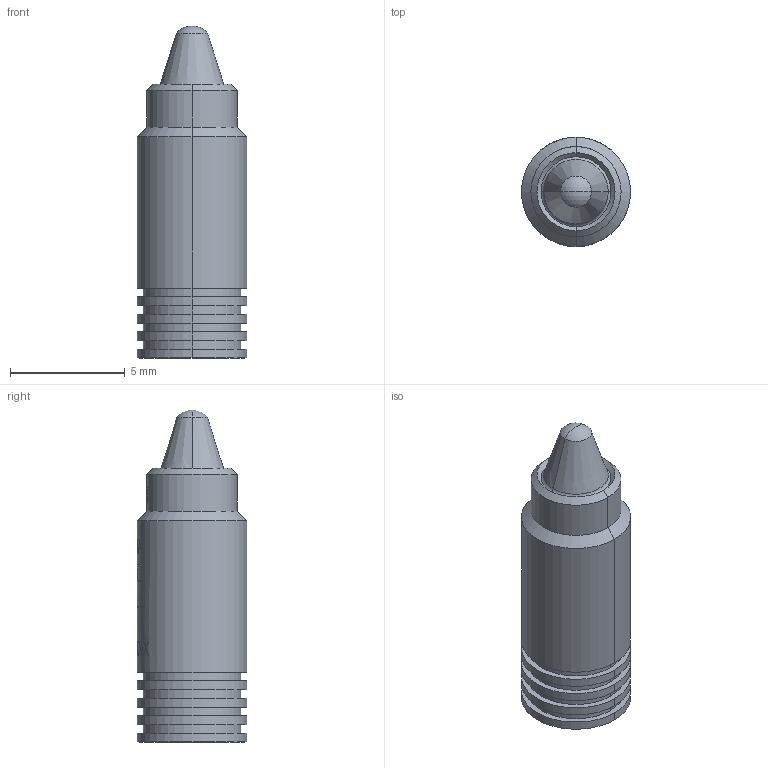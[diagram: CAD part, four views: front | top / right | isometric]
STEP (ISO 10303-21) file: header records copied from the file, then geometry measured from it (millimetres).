
FILE_DESCRIPTION (( 'STEP AP214' ), '1' );
FILE_NAME ('3DJHTA187-----.STEP', '2013-05-02T12:27:52', ( 'tlc' ), ( 'Microsoft' ), 'SwSTEP 2.0', 'SolidWorks 2012', '' );
FILE_SCHEMA (( 'AUTOMOTIVE_DESIGN' ));
Length unit declared in the file: inch
Products named in the file (1): 3DJHTA187-----
Bounding box: 4.76 x 4.76 x 14.48 mm (x, y, z)
Volume: 193.2 mm3; surface area: 265.4 mm2
Topology: 1 solids, 1 shells, 259 faces, 657 edges, 433 vertices
Faces by surface type: plane 99, bspline 97, cylinder 49, cone 10, sphere 2, torus 2
Entity records: 12426 total; most frequent: CARTESIAN_POINT 3519, ORIENTED_EDGE 1314, DIRECTION 844, EDGE_CURVE 657, VERTEX_POINT 433, AXIS2_PLACEMENT_3D 355, B_SPLINE_CURVE_WITH_KNOTS 331, EDGE_LOOP 292
